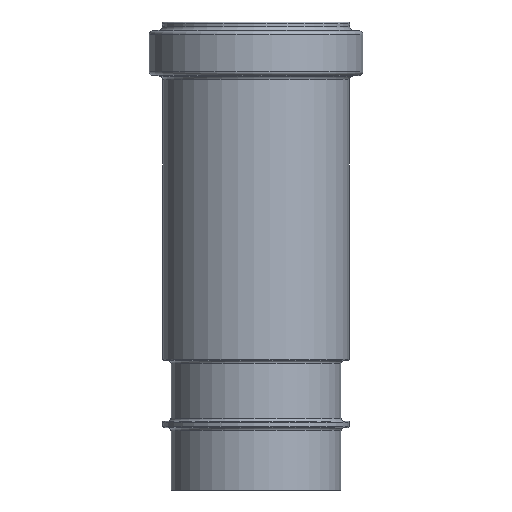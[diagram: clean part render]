
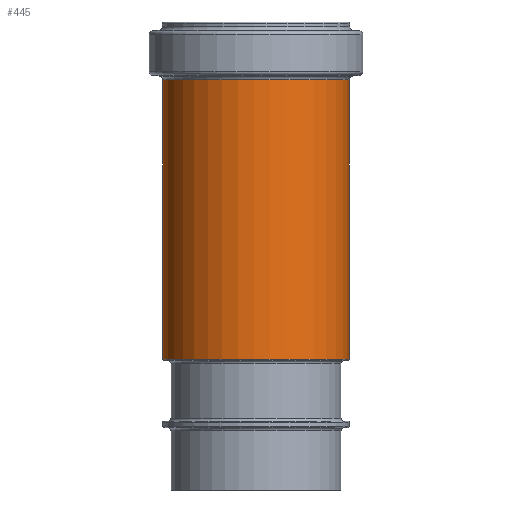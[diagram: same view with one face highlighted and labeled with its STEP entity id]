
A CAD part, front view. The second image highlights one B-rep face of the part: STEP entity #445.
In plain terms, the highlighted cylindrical face has radius 49.525 mm (diameter 99.05 mm), a full revolution.
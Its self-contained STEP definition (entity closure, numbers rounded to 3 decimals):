
#28=CYLINDRICAL_SURFACE('',#511,49.525);
#47=FACE_BOUND('',#136,.T.);
#85=FACE_OUTER_BOUND('',#135,.T.);
#135=EDGE_LOOP('',(#325));
#136=EDGE_LOOP('',(#326));
#191=CIRCLE('',#493,49.525);
#201=CIRCLE('',#512,49.525);
#229=VERTEX_POINT('',#728);
#239=VERTEX_POINT('',#757);
#267=EDGE_CURVE('',#229,#229,#191,.T.);
#277=EDGE_CURVE('',#239,#239,#201,.T.);
#325=ORIENTED_EDGE('',*,*,#277,.T.);
#326=ORIENTED_EDGE('',*,*,#267,.T.);
#445=ADVANCED_FACE('',(#85,#47),#28,.T.);
#493=AXIS2_PLACEMENT_3D('',#729,#579,#580);
#511=AXIS2_PLACEMENT_3D('',#756,#615,#616);
#512=AXIS2_PLACEMENT_3D('',#758,#617,#618);
#579=DIRECTION('center_axis',(0.,0.,-1.));
#580=DIRECTION('ref_axis',(-0.878,-0.479,0.));
#615=DIRECTION('center_axis',(0.,0.,1.));
#616=DIRECTION('ref_axis',(1.,0.,0.));
#617=DIRECTION('center_axis',(0.,0.,1.));
#618=DIRECTION('ref_axis',(-0.878,-0.479,0.));
#728=CARTESIAN_POINT('',(-43.462,-23.744,-30.718));
#729=CARTESIAN_POINT('Origin',(0.,0.,
-30.718));
#756=CARTESIAN_POINT('Origin',(0.,0.,-124.367));
#757=CARTESIAN_POINT('',(43.462,23.744,-179.358));
#758=CARTESIAN_POINT('Origin',(0.,0.,-179.358));
